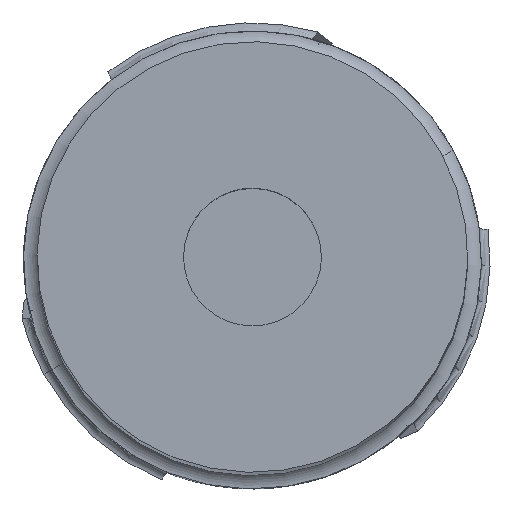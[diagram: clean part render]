
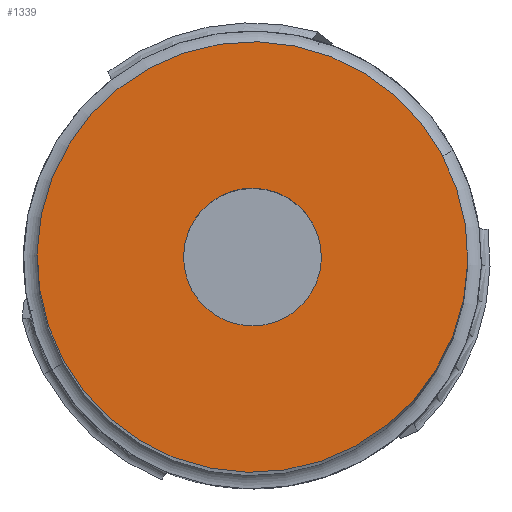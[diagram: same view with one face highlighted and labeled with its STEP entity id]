
A CAD part, top view. The second image highlights one B-rep face of the part: STEP entity #1339.
In plain terms, the highlighted planar face has unit normal (0, 0, 1).
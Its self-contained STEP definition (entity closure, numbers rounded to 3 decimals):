
#1029=AXIS2_PLACEMENT_3D('Circle Axis2P3D',#1027,#1028,$) ;
#1048=AXIS2_PLACEMENT_3D('Circle Axis2P3D',#1046,#1047,$) ;
#1088=AXIS2_PLACEMENT_3D('Circle Axis2P3D',#1086,#1087,$) ;
#1105=AXIS2_PLACEMENT_3D('Circle Axis2P3D',#1103,#1104,$) ;
#1329=AXIS2_PLACEMENT_3D('Plane Axis2P3D',#1326,#1327,#1328) ;
#1024=CARTESIAN_POINT('Vertex',(10.97,5.993,56.)) ;
#1027=CARTESIAN_POINT('Axis2P3D Location',(0.,0.,56.)) ;
#1031=CARTESIAN_POINT('Vertex',(-10.97,-5.993,56.)) ;
#1046=CARTESIAN_POINT('Axis2P3D Location',(0.,0.,56.)) ;
#1067=CARTESIAN_POINT('Vertex',(3.51,1.918,56.)) ;
#1083=CARTESIAN_POINT('Vertex',(-3.51,-1.918,56.)) ;
#1086=CARTESIAN_POINT('Axis2P3D Location',(0.,0.,56.)) ;
#1103=CARTESIAN_POINT('Axis2P3D Location',(0.,0.,56.)) ;
#1326=CARTESIAN_POINT('Axis2P3D Location',(-12.5,0.,56.)) ;
#1028=DIRECTION('Axis2P3D Direction',(0.,0.,1.)) ;
#1047=DIRECTION('Axis2P3D Direction',(0.,0.,1.)) ;
#1087=DIRECTION('Axis2P3D Direction',(0.,0.,1.)) ;
#1104=DIRECTION('Axis2P3D Direction',(0.,0.,1.)) ;
#1327=DIRECTION('Axis2P3D Direction',(0.,0.,1.)) ;
#1328=DIRECTION('Axis2P3D XDirection',(1.,0.,0.)) ;
#1332=ORIENTED_EDGE('',*,*,#1050,.T.) ;
#1333=ORIENTED_EDGE('',*,*,#1033,.T.) ;
#1336=ORIENTED_EDGE('',*,*,#1090,.F.) ;
#1337=ORIENTED_EDGE('',*,*,#1107,.F.) ;
#1338=FACE_BOUND('',#1335,.T.) ;
#1339=ADVANCED_FACE('NOCUT',(#1334,#1338),#1330,.T.) ;
#1030=CIRCLE('generated circle',#1029,12.5) ;
#1049=CIRCLE('generated circle',#1048,12.5) ;
#1089=CIRCLE('generated circle',#1088,4.) ;
#1106=CIRCLE('generated circle',#1105,4.) ;
#1033=EDGE_CURVE('',#1032,#1025,#1030,.T.) ;
#1050=EDGE_CURVE('',#1025,#1032,#1049,.T.) ;
#1090=EDGE_CURVE('',#1084,#1068,#1089,.T.) ;
#1107=EDGE_CURVE('',#1068,#1084,#1106,.T.) ;
#1331=EDGE_LOOP('',(#1332,#1333)) ;
#1335=EDGE_LOOP('',(#1336,#1337)) ;
#1334=FACE_OUTER_BOUND('',#1331,.T.) ;
#1330=PLANE('',#1329) ;
#1025=VERTEX_POINT('',#1024) ;
#1032=VERTEX_POINT('',#1031) ;
#1068=VERTEX_POINT('',#1067) ;
#1084=VERTEX_POINT('',#1083) ;
